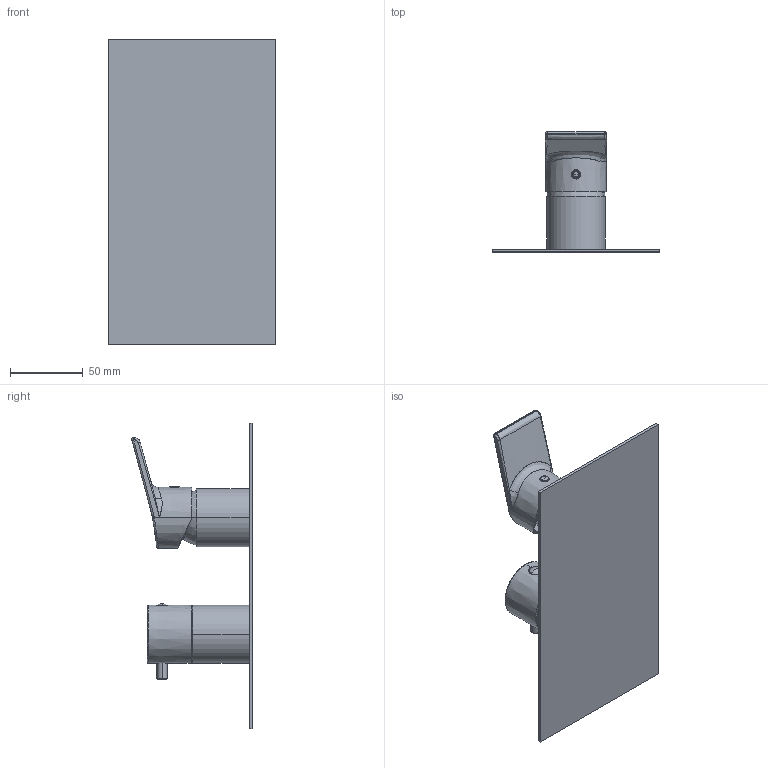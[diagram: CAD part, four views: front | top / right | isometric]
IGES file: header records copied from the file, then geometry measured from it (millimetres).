
Start section:  PTC IGES file: 74523v3.igs
Global section: file name: 74523v3.igs; native system: Creo Parametric by PTC Inc.; preprocessor: 2022014; author: carloff; organization: Unknown; date: 20250714.135428; units: millimetre
Bounding box: 115 x 82.77 x 210 mm (x, y, z)
Surface area: 78704.1 mm2 (no closed solid volume)
Topology: 0 solids, 0 shells, 179 faces, 830 edges, 826 vertices
Faces by surface type: revolution 99, bspline 80
